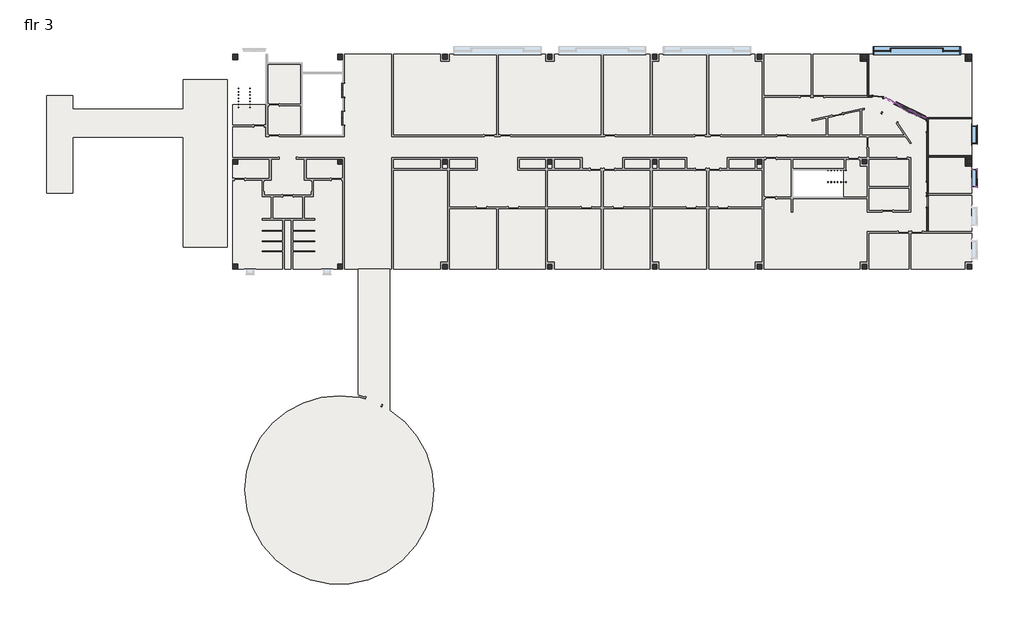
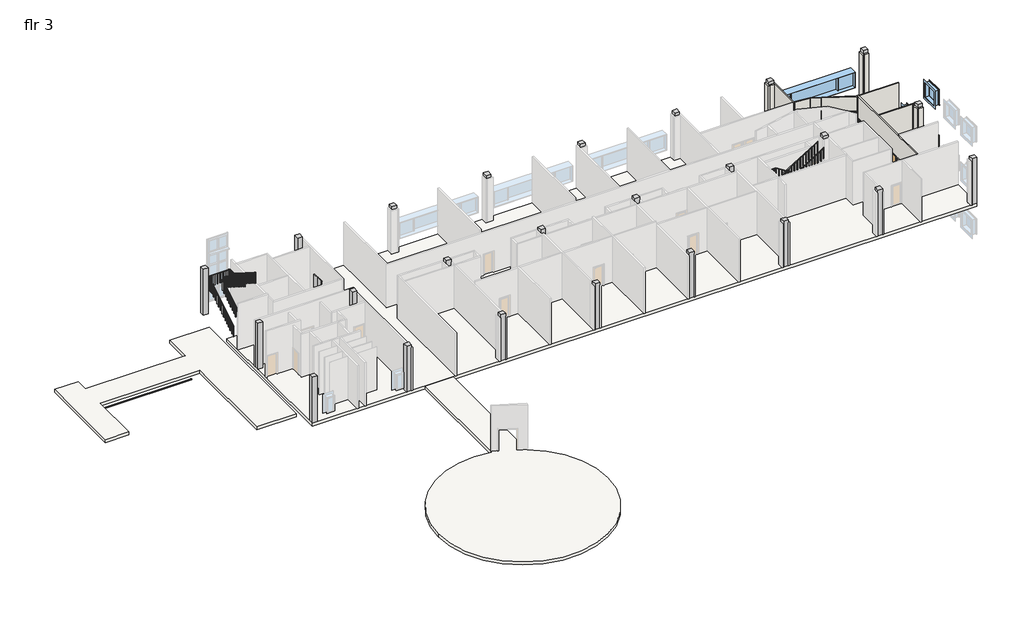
# One storey, part 4 of 4: 24 columns, 16 walls, 12 plates, 5 windows, 4 railings, 3 doors, 3 slabs, 2 beams, 2 proxies.
"""IFC4 building model written with IfcOpenShell, lengths in millimetres."""

from ifc_helpers import new_model, si_unit, point, frame, frame_2d, origin, place, context, project, spatial, polyline, circle_curve, trimmed, segment, composite_curve, outline, extrude, faceted_brep, transform, mapped, element, save
from ifc_brep_helpers import plane_surface, cylinder_surface, revolved_surface, advanced_brep
from components import beam_24h7_efb412ec, proxy_ae548678, column_2b57f2af, door_009a01e8, door_df34b78b, glazed_panel_glazed_panel_e6ec7095, glazed_panel_glazed_panel_da42ca35, glazed_panel_glazed_panel_14e92379, glazed_panel_glazed_panel_29cf083e, stair_railing_1_54533a57, stair_railing_1_f91c0f70, stair_railing_1_055cd317, stair_railing_1_86ab4dc6, fixed_25_x5_r1_fixed_25_x5_r1_81c53d64, fixed_5_x5_e2f24dca

model = new_model("IFC4")

# Units and contexts
model_context = context("Model", 3, world=origin())
ifc_project = project(units=[si_unit("LENGTHUNIT", "METRE", prefix="MILLI")], contexts=[model_context])

# Site, building, storey
site = spatial("IfcSite", under=ifc_project)
building = spatial("IfcBuilding", under=site)
storey = spatial("IfcBuildingStorey", under=building, Name="flr 3", Elevation=10210.8)

# Beams
placement = place(None, origin())
beam_24h7_shape = beam_24h7_efb412ec(model_context)
element("IfcBeam", 1, ObjectType="steel H-series barjoist : 24H7", at=placement, inside=storey, context=model_context, shape_type="MappedRepresentation", body=[
    mapped(beam_24h7_shape, transform((-125644.6252044, 36890.4571029, 9906.0), x_axis=(1.0, 0.0, 0.0), y_axis=(0.0, 1.0, 0.0), z_axis=(0.0, 0.0, 1.0))),
])
element("IfcBeam", 2, ObjectType="steel H-series barjoist : 24H7", at=placement, inside=storey, context=model_context, shape_type="MappedRepresentation", body=[
    mapped(beam_24h7_shape, transform((-125644.6252044, 38719.2571029, 9906.0), x_axis=(1.0, 0.0, 0.0), y_axis=(0.0, 1.0, 0.0), z_axis=(0.0, 0.0, 1.0))),
])

# Proxies
proxy_shape = proxy_ae548678(model_context)
element("IfcBuildingElementProxy", 3, Name="Elevator-Center : 72\" x 114\" Hospital min.", ObjectType="Elevator-Center : 72\" x 114\" Hospital min.", at=placement, inside=storey, context=model_context, shape_type="MappedRepresentation", body=[
    mapped(proxy_shape, transform((-105880.840902, 38348.4927472, 10210.8), x_axis=(0.0, 1.0, 0.0), y_axis=(-1.0, 0.0, 0.0), z_axis=(0.0, 0.0, 1.0))),
])
element("IfcBuildingElementProxy", 4, Name="Elevator-Center : 72\" x 114\" Hospital min.", ObjectType="Elevator-Center : 72\" x 114\" Hospital min.", at=placement, inside=storey, context=model_context, shape_type="MappedRepresentation", body=[
    mapped(proxy_shape, transform((-105880.840902, 40786.8927472, 10210.8), x_axis=(0.0, 1.0, 0.0), y_axis=(-1.0, 0.0, 0.0), z_axis=(0.0, 0.0, 1.0))),
])

# Columns
element("IfcColumn", 5, ObjectType="Rectangular Column : 18\" x 18\"", at=placement, inside=storey, context=model_context, shape_type="SweptSolid", body=[
    extrude(outline(polyline([(-105950.690902, 25543.0071029), (-105950.690902, 25085.8071029), (-106407.890902, 25085.8071029), (-106407.890902, 25543.0071029), (-105950.690902, 25543.0071029)])), frame((0.0, 0.0, 10210.8), z_axis=(0.0, 0.0, 1.0), x_axis=(1.0, 0.0, 0.0)), (0.0, 0.0, 1.0), 4724.4),
])
element("IfcColumn", 6, ObjectType="Rectangular Column : 18\" x 18\"", at=placement, inside=storey, context=model_context, shape_type="SweptSolid", body=[
    extrude(outline(polyline([(-96806.690902, 25543.0071029), (-96806.690902, 25085.8071029), (-97263.890902, 25085.8071029), (-97263.890902, 25543.0071029), (-96806.690902, 25543.0071029)])), frame((0.0, 0.0, 10210.8), z_axis=(0.0, 0.0, 1.0), x_axis=(1.0, 0.0, 0.0)), (0.0, 0.0, 1.0), 4724.4),
])
element("IfcColumn", 7, ObjectType="Rectangular Column : 18\" x 18\"", at=placement, inside=storey, context=model_context, shape_type="SweptSolid", body=[
    extrude(outline(polyline([(-87662.690902, 25543.0071029), (-87662.690902, 25085.8071029), (-88119.890902, 25085.8071029), (-88119.890902, 25543.0071029), (-87662.690902, 25543.0071029)])), frame((0.0, 0.0, 10210.8), z_axis=(0.0, 0.0, 1.0), x_axis=(1.0, 0.0, 0.0)), (0.0, 0.0, 1.0), 4724.4),
])
element("IfcColumn", 8, ObjectType="Rectangular Column : 18\" x 18\"", at=placement, inside=storey, context=model_context, shape_type="SweptSolid", body=[
    extrude(outline(polyline([(-78518.690902, 25543.0071029), (-78518.690902, 25085.8071029), (-78975.890902, 25085.8071029), (-78975.890902, 25543.0071029), (-78518.690902, 25543.0071029)])), frame((0.0, 0.0, 10210.8), z_axis=(0.0, 0.0, 1.0), x_axis=(1.0, 0.0, 0.0)), (0.0, 0.0, 1.0), 4724.4),
])
element("IfcColumn", 9, ObjectType="Rectangular Column : 18\" x 18\"", at=placement, inside=storey, context=model_context, shape_type="SweptSolid", body=[
    extrude(outline(polyline([(-69374.690902, 25543.0071029), (-69374.690902, 25085.8071029), (-69831.890902, 25085.8071029), (-69831.890902, 25543.0071029), (-69374.690902, 25543.0071029)])), frame((0.0, 0.0, 10210.8), z_axis=(0.0, 0.0, 1.0), x_axis=(1.0, 0.0, 0.0)), (0.0, 0.0, 1.0), 4724.4),
])
element("IfcColumn", 10, ObjectType="Rectangular Column : 18\" x 18\"", at=placement, inside=storey, context=model_context, shape_type="SweptSolid", body=[
    extrude(outline(polyline([(-60230.690902, 25543.0071029), (-60230.690902, 25085.8071029), (-60687.890902, 25085.8071029), (-60687.890902, 25543.0071029), (-60230.690902, 25543.0071029)])), frame((0.0, 0.0, 10210.8), z_axis=(0.0, 0.0, 1.0), x_axis=(1.0, 0.0, 0.0)), (0.0, 0.0, 1.0), 4724.4),
])
element("IfcColumn", 11, ObjectType="Rectangular Column : 18\" x 18\"", at=placement, inside=storey, context=model_context, shape_type="SweptSolid", body=[
    extrude(outline(polyline([(-51086.690902, 25543.0071029), (-51086.690902, 25085.8071029), (-51543.890902, 25085.8071029), (-51543.890902, 25543.0071029), (-51086.690902, 25543.0071029)])), frame((0.0, 0.0, 10210.8), z_axis=(0.0, 0.0, 1.0), x_axis=(1.0, 0.0, 0.0)), (0.0, 0.0, 1.0), 4724.4),
])
element("IfcColumn", 12, ObjectType="Rectangular Column : 18\" x 18\"", at=placement, inside=storey, context=model_context, shape_type="SweptSolid", body=[
    extrude(outline(polyline([(-115094.690902, 34687.0071029), (-115094.690902, 34229.8071029), (-115551.890902, 34229.8071029), (-115551.890902, 34687.0071029), (-115094.690902, 34687.0071029)])), frame((0.0, 0.0, 10210.8), z_axis=(0.0, 0.0, 1.0), x_axis=(1.0, 0.0, 0.0)), (0.0, 0.0, 1.0), 4724.4),
])
element("IfcColumn", 13, ObjectType="Rectangular Column : 18\" x 18\"", at=placement, inside=storey, context=model_context, shape_type="SweptSolid", body=[
    extrude(outline(polyline([(-105950.690902, 34687.0071029), (-105950.690902, 34229.8071029), (-106407.890902, 34229.8071029), (-106407.890902, 34687.0071029), (-105950.690902, 34687.0071029)])), frame((0.0, 0.0, 10210.8), z_axis=(0.0, 0.0, 1.0), x_axis=(1.0, 0.0, 0.0)), (0.0, 0.0, 1.0), 4724.4),
])
element("IfcColumn", 14, ObjectType="Rectangular Column : 18\" x 18\"", at=placement, inside=storey, context=model_context, shape_type="SweptSolid", body=[
    extrude(outline(polyline([(-96806.690902, 34687.0071029), (-96806.690902, 34229.8071029), (-97263.890902, 34229.8071029), (-97263.890902, 34687.0071029), (-96806.690902, 34687.0071029)])), frame((0.0, 0.0, 10210.8), z_axis=(0.0, 0.0, 1.0), x_axis=(1.0, 0.0, 0.0)), (0.0, 0.0, 1.0), 4724.4),
])
element("IfcColumn", 15, ObjectType="Rectangular Column : 18\" x 18\"", at=placement, inside=storey, context=model_context, shape_type="SweptSolid", body=[
    extrude(outline(polyline([(-87662.690902, 34687.0071029), (-87662.690902, 34229.8071029), (-88119.890902, 34229.8071029), (-88119.890902, 34687.0071029), (-87662.690902, 34687.0071029)])), frame((0.0, 0.0, 10210.8), z_axis=(0.0, 0.0, 1.0), x_axis=(1.0, 0.0, 0.0)), (0.0, 0.0, 1.0), 4724.4),
])
element("IfcColumn", 16, ObjectType="Rectangular Column : 18\" x 18\"", at=placement, inside=storey, context=model_context, shape_type="SweptSolid", body=[
    extrude(outline(polyline([(-78518.690902, 34687.0071029), (-78518.690902, 34229.8071029), (-78975.890902, 34229.8071029), (-78975.890902, 34687.0071029), (-78518.690902, 34687.0071029)])), frame((0.0, 0.0, 10210.8), z_axis=(0.0, 0.0, 1.0), x_axis=(1.0, 0.0, 0.0)), (0.0, 0.0, 1.0), 4724.4),
])
element("IfcColumn", 17, ObjectType="Rectangular Column : 18\" x 18\"", at=placement, inside=storey, context=model_context, shape_type="SweptSolid", body=[
    extrude(outline(polyline([(-69374.690902, 34687.0071029), (-69374.690902, 34229.8071029), (-69831.890902, 34229.8071029), (-69831.890902, 34687.0071029), (-69374.690902, 34687.0071029)])), frame((0.0, 0.0, 10210.8), z_axis=(0.0, 0.0, 1.0), x_axis=(1.0, 0.0, 0.0)), (0.0, 0.0, 1.0), 4724.4),
])
element("IfcColumn", 18, ObjectType="Rectangular Column : 18\" x 18\"", at=placement, inside=storey, context=model_context, shape_type="SweptSolid", body=[
    extrude(outline(polyline([(-60230.690902, 34687.0071029), (-60230.690902, 34229.8071029), (-60687.890902, 34229.8071029), (-60687.890902, 34687.0071029), (-60230.690902, 34687.0071029)])), frame((0.0, 0.0, 10210.8), z_axis=(0.0, 0.0, 1.0), x_axis=(1.0, 0.0, 0.0)), (0.0, 0.0, 1.0), 4724.4),
])
element("IfcColumn", 19, ObjectType="Rectangular Column : 18\" x 18\"", at=placement, inside=storey, context=model_context, shape_type="SweptSolid", body=[
    extrude(outline(polyline([(-51086.690902, 34687.0071029), (-51086.690902, 34229.8071029), (-51543.890902, 34229.8071029), (-51543.890902, 34687.0071029), (-51086.690902, 34687.0071029)])), frame((0.0, 0.0, 10210.8), z_axis=(0.0, 0.0, 1.0), x_axis=(1.0, 0.0, 0.0)), (0.0, 0.0, 1.0), 4724.4),
])
element("IfcColumn", 20, ObjectType="Rectangular Column : 18\" x 18\"", at=placement, inside=storey, context=model_context, shape_type="SweptSolid", body=[
    extrude(outline(polyline([(-105950.690902, 43831.0071029), (-105950.690902, 43373.8071029), (-106407.890902, 43373.8071029), (-106407.890902, 43831.0071029), (-105950.690902, 43831.0071029)])), frame((0.0, 0.0, 10210.8), z_axis=(0.0, 0.0, 1.0), x_axis=(1.0, 0.0, 0.0)), (0.0, 0.0, 1.0), 4724.4),
])
element("IfcColumn", 21, ObjectType="Rectangular Column : 18\" x 18\"", at=placement, inside=storey, context=model_context, shape_type="SweptSolid", body=[
    extrude(outline(polyline([(-96806.690902, 43831.0071029), (-96806.690902, 43373.8071029), (-97263.890902, 43373.8071029), (-97263.890902, 43831.0071029), (-96806.690902, 43831.0071029)])), frame((0.0, 0.0, 10210.8), z_axis=(0.0, 0.0, 1.0), x_axis=(1.0, 0.0, 0.0)), (0.0, 0.0, 1.0), 4724.4),
])
element("IfcColumn", 22, ObjectType="Rectangular Column : 18\" x 18\"", at=placement, inside=storey, context=model_context, shape_type="SweptSolid", body=[
    extrude(outline(polyline([(-87662.690902, 43831.0071029), (-87662.690902, 43373.8071029), (-88119.890902, 43373.8071029), (-88119.890902, 43831.0071029), (-87662.690902, 43831.0071029)])), frame((0.0, 0.0, 10210.8), z_axis=(0.0, 0.0, 1.0), x_axis=(1.0, 0.0, 0.0)), (0.0, 0.0, 1.0), 4724.4),
])
element("IfcColumn", 23, ObjectType="Rectangular Column : 18\" x 18\"", at=placement, inside=storey, context=model_context, shape_type="SweptSolid", body=[
    extrude(outline(polyline([(-78518.690902, 43831.0071029), (-78518.690902, 43373.8071029), (-78975.890902, 43373.8071029), (-78975.890902, 43831.0071029), (-78518.690902, 43831.0071029)])), frame((0.0, 0.0, 10210.8), z_axis=(0.0, 0.0, 1.0), x_axis=(1.0, 0.0, 0.0)), (0.0, 0.0, 1.0), 4724.4),
])
element("IfcColumn", 24, ObjectType="Rectangular Column : 18\" x 18\"", at=placement, inside=storey, context=model_context, shape_type="SweptSolid", body=[
    extrude(outline(polyline([(-69374.690902, 43831.0071029), (-69374.690902, 43373.8071029), (-69831.890902, 43373.8071029), (-69831.890902, 43831.0071029), (-69374.690902, 43831.0071029)])), frame((0.0, 0.0, 10210.8), z_axis=(0.0, 0.0, 1.0), x_axis=(1.0, 0.0, 0.0)), (0.0, 0.0, 1.0), 4724.4),
])
element("IfcColumn", 25, ObjectType="Rectangular Column : 18\" x 18\"", at=placement, inside=storey, context=model_context, shape_type="SweptSolid", body=[
    extrude(outline(polyline([(-60230.690902, 43831.0071029), (-60230.690902, 43373.8071029), (-60687.890902, 43373.8071029), (-60687.890902, 43831.0071029), (-60230.690902, 43831.0071029)])), frame((0.0, 0.0, 10210.8), z_axis=(0.0, 0.0, 1.0), x_axis=(1.0, 0.0, 0.0)), (0.0, 0.0, 1.0), 4724.4),
])
element("IfcColumn", 26, ObjectType="Rectangular Column : 18\" x 18\"", at=placement, inside=storey, context=model_context, shape_type="SweptSolid", body=[
    extrude(outline(polyline([(-51086.690902, 43831.0071029), (-51086.690902, 43373.8071029), (-51543.890902, 43373.8071029), (-51543.890902, 43831.0071029), (-51086.690902, 43831.0071029)])), frame((0.0, 0.0, 10210.8), z_axis=(0.0, 0.0, 1.0), x_axis=(1.0, 0.0, 0.0)), (0.0, 0.0, 1.0), 4724.4),
])
column_shape = column_2b57f2af(model_context)
element("IfcColumn", 27, ObjectType="Rectangular Column : 18\" x 18\"", at=placement, inside=storey, context=model_context, shape_type="MappedRepresentation", body=[
    mapped(column_shape, transform((-115323.290902, 25314.4071029, 0.0), x_axis=(1.0, 0.0, 0.0), y_axis=(0.0, 1.0, 0.0), z_axis=(0.0, 0.0, 1.0))),
])
element("IfcColumn", 28, ObjectType="Rectangular Column : 18\" x 18\"", at=placement, inside=storey, context=model_context, shape_type="MappedRepresentation", body=[
    mapped(column_shape, transform((-115323.290902, 43602.4071029, 0.0), x_axis=(1.0, 0.0, 0.0), y_axis=(0.0, 1.0, 0.0), z_axis=(0.0, 0.0, 1.0))),
])

# Doors
door_shape = door_009a01e8(model_context)
element("IfcDoor", 29, ObjectType="Sgl-Glass 1 : 36\" x 84\"", at=placement, inside=storey, context=model_context, shape_type="MappedRepresentation", body=[
    mapped(door_shape, transform((-54972.890902, 32233.7904363, 10210.8), x_axis=(0.0, -1.0, 0.0), y_axis=(1.0, 0.0, 0.0), z_axis=(0.0, 0.0, 1.0))),
])
door_2_shape = door_df34b78b(model_context)
element("IfcDoor", 30, ObjectType="Sgl-Glass 1 : 36\" x 84\"", at=placement, inside=storey, context=model_context, shape_type="MappedRepresentation", body=[
    mapped(door_2_shape, transform((-59292.936844, 40122.4473713, 10210.8), x_axis=(-0.9923887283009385, 0.12314467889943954, 0.0), y_axis=(-0.12314467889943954, -0.9923887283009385, 0.0), z_axis=(0.0, 0.0, 1.0))),
])
element("IfcDoor", 31, ObjectType="Sgl-Glass 1 : 36\" x 84\"", at=placement, inside=storey, context=model_context, shape_type="MappedRepresentation", body=[
    mapped(door_2_shape, transform((-54972.890902, 37550.8571029, 10210.8), x_axis=(0.0, 1.0, 0.0), y_axis=(-1.0, 0.0, 0.0), z_axis=(0.0, 0.0, 1.0))),
])

# Plates
glazed_panel_glazed_panel_shape = glazed_panel_glazed_panel_e6ec7095(model_context)
element("IfcPlate", 32, ObjectType="Glazed Panel : Glazed Panel", at=placement, inside=storey, context=model_context, shape_type="MappedRepresentation", body=[
    mapped(glazed_panel_glazed_panel_shape, transform((-57497.286237, 39334.3047685, 10210.8), x_axis=(0.7643032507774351, -0.644856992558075, 0.0), y_axis=(0.644856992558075, 0.7643032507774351, 0.0), z_axis=(0.0, 0.0, 1.0))),
])
element("IfcPlate", 33, ObjectType="Glazed Panel : Glazed Panel", at=placement, inside=storey, context=model_context, shape_type="MappedRepresentation", body=[
    mapped(glazed_panel_glazed_panel_shape, transform((-56207.1261408, 38568.3976796, 10210.8), x_axis=(0.9320948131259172, -0.36221438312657, 0.0), y_axis=(0.36221438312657, 0.9320948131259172, 0.0), z_axis=(0.0, 0.0, 1.0))),
])
element("IfcPlate", 34, ObjectType="Glazed Panel : Glazed Panel", at=placement, inside=storey, context=model_context, shape_type="MappedRepresentation", body=[
    mapped(glazed_panel_glazed_panel_shape, transform((-55485.3981443, 38354.5220069, 10210.8), x_axis=(0.9789497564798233, -0.20410138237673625, 0.0), y_axis=(0.20410138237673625, 0.9789497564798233, 0.0), z_axis=(0.0, 0.0, 1.0))),
])
element("IfcPlate", 35, ObjectType="Glazed Panel : Glazed Panel", at=placement, inside=storey, context=model_context, shape_type="MappedRepresentation", body=[
    mapped(glazed_panel_glazed_panel_shape, transform((-56883.8903971, 38897.9796053, 10210.8), x_axis=(0.859891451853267, -0.5104769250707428, 0.0), y_axis=(0.5104769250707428, 0.859891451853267, 0.0), z_axis=(0.0, 0.0, 1.0))),
])
glazed_panel_glazed_panel_2_shape = glazed_panel_glazed_panel_da42ca35(model_context)
element("IfcPlate", 36, ObjectType="Glazed Panel : Glazed Panel", at=placement, inside=storey, context=model_context, shape_type="MappedRepresentation", body=[
    mapped(glazed_panel_glazed_panel_2_shape, transform((-58432.524926, 39920.3255084, 10210.8), x_axis=(0.9250394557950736, -0.3798710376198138, 0.0), y_axis=(0.3798710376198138, 0.9250394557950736, 0.0), z_axis=(0.0, 0.0, 1.0))),
])
element("IfcPlate", 37, ObjectType="Glazed Panel : Glazed Panel", at=placement, inside=storey, context=model_context, shape_type="MappedRepresentation", body=[
    mapped(glazed_panel_glazed_panel_2_shape, transform((-57996.1540297, 39702.6490757, 10210.8), x_axis=(0.8598752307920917, -0.5105042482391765, 0.0), y_axis=(0.5105042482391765, 0.8598752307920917, 0.0), z_axis=(0.0, 0.0, 1.0))),
])
glazed_panel_glazed_panel_3_shape = glazed_panel_glazed_panel_14e92379(model_context)
element("IfcPlate", 38, ObjectType="Glazed Panel : Glazed Panel", at=placement, inside=storey, context=model_context, shape_type="MappedRepresentation", body=[
    mapped(glazed_panel_glazed_panel_3_shape, transform((-58432.524926, 39920.3255084, 12207.6598856), x_axis=(0.9250394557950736, -0.3798710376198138, 0.0), y_axis=(0.3798710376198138, 0.9250394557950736, 0.0), z_axis=(0.0, 0.0, 1.0))),
])
element("IfcPlate", 39, ObjectType="Glazed Panel : Glazed Panel", at=placement, inside=storey, context=model_context, shape_type="MappedRepresentation", body=[
    mapped(glazed_panel_glazed_panel_3_shape, transform((-57996.1540297, 39702.6490757, 12207.6598856), x_axis=(0.8598752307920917, -0.5105042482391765, 0.0), y_axis=(0.5105042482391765, 0.8598752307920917, 0.0), z_axis=(0.0, 0.0, 1.0))),
])
glazed_panel_glazed_panel_4_shape = glazed_panel_glazed_panel_29cf083e(model_context)
element("IfcPlate", 40, ObjectType="Glazed Panel : Glazed Panel", at=placement, inside=storey, context=model_context, shape_type="MappedRepresentation", body=[
    mapped(glazed_panel_glazed_panel_4_shape, transform((-57497.286237, 39334.3047685, 12166.4389069), x_axis=(0.7643032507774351, -0.644856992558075, 0.0), y_axis=(0.644856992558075, 0.7643032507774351, 0.0), z_axis=(0.0, 0.0, 1.0))),
])
element("IfcPlate", 41, ObjectType="Glazed Panel : Glazed Panel", at=placement, inside=storey, context=model_context, shape_type="MappedRepresentation", body=[
    mapped(glazed_panel_glazed_panel_4_shape, transform((-56883.8903971, 38897.9796053, 12166.4389069), x_axis=(0.859891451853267, -0.5104769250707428, 0.0), y_axis=(0.5104769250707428, 0.859891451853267, 0.0), z_axis=(0.0, 0.0, 1.0))),
])
element("IfcPlate", 42, ObjectType="Glazed Panel : Glazed Panel", at=placement, inside=storey, context=model_context, shape_type="MappedRepresentation", body=[
    mapped(glazed_panel_glazed_panel_4_shape, transform((-56207.1261408, 38568.3976796, 12166.4389069), x_axis=(0.9320948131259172, -0.36221438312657, 0.0), y_axis=(0.36221438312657, 0.9320948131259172, 0.0), z_axis=(0.0, 0.0, 1.0))),
])
element("IfcPlate", 43, ObjectType="Glazed Panel : Glazed Panel", at=placement, inside=storey, context=model_context, shape_type="MappedRepresentation", body=[
    mapped(glazed_panel_glazed_panel_4_shape, transform((-55485.3981443, 38354.5220069, 12166.4389069), x_axis=(0.9789497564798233, -0.20410138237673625, 0.0), y_axis=(0.20410138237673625, 0.9789497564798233, 0.0), z_axis=(0.0, 0.0, 1.0))),
])

# Railings
stair_railing_1_shape = stair_railing_1_54533a57(model_context)
element("IfcRailing", 44, ObjectType="Stair Railing 1", at=placement, inside=storey, context=model_context, shape_type="MappedRepresentation", body=[
    mapped(stair_railing_1_shape, transform((0.0, 0.0, 0.0), x_axis=(1.0, 0.0, 0.0), y_axis=(0.0, 1.0, 0.0), z_axis=(0.0, 0.0, 1.0))),
])
stair_railing_1_2_shape = stair_railing_1_f91c0f70(model_context)
element("IfcRailing", 45, ObjectType="Stair Railing 1", at=placement, inside=storey, context=model_context, shape_type="MappedRepresentation", body=[
    mapped(stair_railing_1_2_shape, transform((0.0, 0.0, 0.0), x_axis=(1.0, 0.0, 0.0), y_axis=(0.0, 1.0, 0.0), z_axis=(0.0, 0.0, 1.0))),
])
stair_railing_1_3_shape = stair_railing_1_055cd317(model_context)
element("IfcRailing", 46, ObjectType="Stair Railing 1", at=placement, inside=storey, context=model_context, shape_type="MappedRepresentation", body=[
    mapped(stair_railing_1_3_shape, transform((0.0, 0.0, 0.0), x_axis=(1.0, 0.0, 0.0), y_axis=(0.0, 1.0, 0.0), z_axis=(0.0, 0.0, 1.0))),
])
stair_railing_1_4_shape = stair_railing_1_86ab4dc6(model_context)
element("IfcRailing", 47, ObjectType="Stair Railing 1", at=placement, inside=storey, context=model_context, shape_type="MappedRepresentation", body=[
    mapped(stair_railing_1_4_shape, transform((0.0, 0.0, 0.0), x_axis=(1.0, 0.0, 0.0), y_axis=(0.0, 1.0, 0.0), z_axis=(0.0, 0.0, 1.0))),
])

# Slabs
element("IfcSlab", 48, ObjectType="Generic - 12\"", at=placement, inside=storey, context=model_context, shape_type="SweptSolid", body=[
    extrude(outline(polyline([(-119844.490902, 41618.0321029), (-116007.8828209, 41618.0321029), (-116007.8828209, 26993.9821029), (-119844.490902, 26993.9821029), (-119844.490902, 36592.0071029), (-129506.015902, 36592.0071029), (-129506.015902, 31731.2762968), (-131788.840902, 31731.2762968), (-131788.840902, 40240.0821029), (-129506.015902, 40240.0821029), (-129506.015902, 39030.4071029), (-119844.490902, 39030.4071029), (-119844.490902, 41618.0321029)])), frame((0.0, 0.0, 9906.0), z_axis=(0.0, 0.0, 1.0), x_axis=(1.0, 0.0, 0.0)), (0.0, 0.0, 1.0), 304.8),
])
element("IfcSlab", 49, ObjectType="Generic - 12\"", at=placement, inside=storey, context=model_context, shape_type="SweptSolid", body=[
    extrude(outline(composite_curve([segment(trimmed(circle_curve(frame_2d((-106255.490902, 5807.2071029)), 8229.6), [point((-101864.8074925, 12767.6823279))], [point((-98025.890902, 5807.2071029))], False, "CARTESIAN"), True, "CONTINUOUS"), segment(trimmed(circle_curve(frame_2d((-106255.490902, 5807.2071029)), 8229.6), [point((-98025.890902, 5807.2071029))], [point((-114485.090902, 5807.2071029))], False, "CARTESIAN"), True, "CONTINUOUS"), segment(trimmed(circle_curve(frame_2d((-106255.490902, 5807.2071029)), 8229.6), [point((-114485.090902, 5807.2071029))], [point((-104601.6574925, 13868.9160541))], False, "CARTESIAN"), True, "CONTINUOUS"), segment(polyline([(-104601.6574925, 13868.9160541), (-104601.6574925, 25084.2196029), (-101864.8074925, 25084.2196029), (-101864.8074925, 12767.6823279)]), True, "CONTINUOUS")], self_intersect=False)), frame((0.0, 0.0, 9906.0), z_axis=(0.0, 0.0, 1.0), x_axis=(1.0, 0.0, 0.0)), (0.0, 0.0, 1.0), 304.8),
])
element("IfcSlab", 50, ObjectType="Generic - 12\"", at=placement, inside=storey, context=model_context, shape_type="SweptSolid", body=[
    extrude(outline(polyline([(-51085.103402, 43832.5946029), (-51085.103402, 25084.2196029), (-115553.8578209, 25084.2196029), (-115553.8578209, 39436.8071029), (-112649.940902, 39436.8071029), (-112649.940902, 43119.8071029), (-109493.990902, 43119.8071029), (-109493.990902, 36795.2071029), (-105950.690902, 36795.2071029), (-105950.690902, 43832.5946029), (-51085.103402, 43832.5946029)]), holes=[polyline([(-66688.640902, 31372.3071029), (-62318.5594944, 31372.3071029), (-62318.5594944, 33728.1571029), (-66688.640902, 33728.1571029), (-66688.640902, 31372.3071029)])]), frame((0.0, 0.0, 9906.0), z_axis=(0.0, 0.0, 1.0), x_axis=(1.0, 0.0, 0.0)), (0.0, 0.0, 1.0), 304.8),
])

# Walls
element("IfcWall", 51, ObjectType="Curtain Wall 1", at=placement, inside=storey, context=model_context, shape_type="SweptSolid", body=[
    extrude(outline(composite_curve([segment(polyline([(-55096.9889353, 38428.6894426), (-55134.3840475, 38126.1920946)]), True, "CONTINUOUS"), segment(trimmed(circle_curve(frame_2d((-54553.7500122, 42823.069458)), 4732.6306479), [point((-55134.3840475, 38126.1920946))], [point((-57893.4800288, 39469.862595))], False, "CARTESIAN"), True, "CONTINUOUS"), segment(polyline([(-57893.4800288, 39469.862595), (-57678.3882997, 39685.8222859)]), True, "CONTINUOUS"), segment(trimmed(circle_curve(frame_2d((-54553.7500122, 42823.069458)), 4427.8306479), [point((-57678.3882997, 39685.8222859))], [point((-55096.9889353, 38428.6894426))], True, "CARTESIAN"), True, "CONTINUOUS")], self_intersect=False)), frame((0.0, 0.0, 10210.8), z_axis=(0.0, 0.0, 1.0), x_axis=(1.0, 0.0, 0.0)), (0.0, 0.0, 1.0), 2933.4583604),
])
element("IfcWall", 52, ObjectType="Interior - 4 7/8\" Partition (1-hr)", at=placement, inside=storey, context=model_context, shape_type="Brep", body=[
    faceted_brep([(-60097.340902, 40084.5071029, 10210.8), (-60097.340902, 40092.2247989, 10210.8), (-60097.340902, 40220.1216597, 10210.8), (-60097.340902, 43832.5946029, 10210.8), (-60097.340902, 43832.5946029, 14630.4), (-60097.340902, 40220.1216597, 14630.4), (-60097.340902, 40092.2247989, 14630.4), (-60097.340902, 40084.5071029, 14630.4), (-60224.340902, 40084.5071029, 10210.8), (-60224.340902, 40084.5071029, 14630.4), (-60224.340902, 40211.5071029, 14630.4), (-60224.340902, 43234.1071029, 14630.4), (-60224.340902, 43373.8071029, 14630.4), (-60224.340902, 43832.5946029, 14630.4), (-60224.340902, 43832.5946029, 10210.8), (-60224.340902, 43373.8071029, 10210.8), (-60224.340902, 43234.1071029, 10210.8), (-60224.340902, 40211.5071029, 10210.8)], [[[0, 1, 2, 3, 4, 5, 6, 7]], [[8, 9, 10, 11, 12, 13, 14, 15, 16, 17]], [[3, 2, 1, 0, 8, 17, 16, 15, 14]], [[0, 7, 9, 8]], [[4, 3, 14, 13]], [[7, 6, 5, 4, 13, 12, 11, 10, 9]]]),
])
element("IfcWall", 53, ObjectType="Interior - 4 7/8\" Partition (1-hr)", at=placement, inside=storey, context=model_context, shape_type="Brep", body=[
    faceted_brep([(-54909.390902, 31420.9904363, 12344.4), (-54909.390902, 31420.9904363, 10210.8), (-54909.390902, 31560.6904363, 10210.8), (-54909.390902, 31687.6904363, 10210.8), (-54909.390902, 31776.5904363, 10210.8), (-54909.390902, 31776.5904363, 12344.4), (-54909.390902, 32690.9904363, 12344.4), (-54909.390902, 32690.9904363, 10210.8), (-54909.390902, 34879.6237696, 10210.8), (-54909.390902, 35006.6237696, 10210.8), (-54909.390902, 37093.6571029, 10210.8), (-54909.390902, 37093.6571029, 12344.4), (-54909.390902, 38008.0571029, 12344.4), (-54909.390902, 38008.0571029, 10210.8), (-54909.390902, 38198.5571029, 10210.8), (-54909.390902, 38325.5571029, 10210.8), (-54909.390902, 38325.5571029, 14630.4), (-54909.390902, 38198.5571029, 14630.4), (-54909.390902, 35006.6237696, 14630.4), (-54909.390902, 34879.6237696, 14630.4), (-54909.390902, 31687.6904363, 14630.4), (-54909.390902, 31560.6904363, 14630.4), (-54909.390902, 28368.7571029, 14630.4), (-54909.390902, 28368.7571029, 10210.8), (-54909.390902, 30506.5904363, 10210.8), (-54909.390902, 30506.5904363, 12344.4), (-55036.390902, 31776.5904363, 10210.8), (-55036.390902, 31420.9904363, 10210.8), (-55036.390902, 31420.9904363, 12344.4), (-55036.390902, 30506.5904363, 12344.4), (-55036.390902, 30506.5904363, 10210.8), (-55036.390902, 28368.7571029, 10210.8), (-55036.390902, 28368.7571029, 14630.4), (-55036.390902, 38204.4882795, 14630.4), (-55036.390902, 38325.5571029, 14630.4), (-55036.390902, 38325.5571029, 10210.8), (-55036.390902, 38204.4882795, 10210.8), (-55036.390902, 38008.0571029, 10210.8), (-55036.390902, 38008.0571029, 12344.4), (-55036.390902, 37093.6571029, 12344.4), (-55036.390902, 37093.6571029, 10210.8), (-55036.390902, 32690.9904363, 10210.8), (-55036.390902, 32690.9904363, 12344.4), (-55036.390902, 31776.5904363, 12344.4), (-54969.96914, 38325.5571029, 10210.8), (-54969.96914, 38325.5571029, 14630.4)], [[[0, 1, 2, 3, 4, 5, 6, 7, 8, 9, 10, 11, 12, 13, 14, 15, 16, 17, 18, 19, 20, 21, 22, 23, 24, 25]], [[26, 27, 28, 29, 30, 31, 32, 33, 34, 35, 36, 37, 38, 39, 40, 41, 42, 43]], [[15, 14, 13, 37, 36, 35, 44]], [[4, 3, 2, 1, 27, 26]], [[41, 40, 10, 9, 8, 7]], [[24, 23, 31, 30]], [[16, 15, 44, 35, 34, 45]], [[23, 22, 32, 31]], [[22, 21, 20, 19, 18, 17, 16, 45, 34, 33, 32]], [[38, 37, 13, 12]], [[39, 38, 12, 11]], [[40, 39, 11, 10]], [[5, 4, 26, 43]], [[6, 5, 43, 42]], [[7, 6, 42, 41]], [[28, 27, 1, 0]], [[29, 28, 0, 25]], [[30, 29, 25, 24]]]),
])
element("IfcWall", 54, ObjectType="Interior - 4 7/8\" Partition (1-hr)", at=placement, inside=storey, context=model_context, shape_type="SweptSolid", body=[
    extrude(outline(polyline([(-51085.103402, 38198.5571029), (-54909.390902, 38198.5571029), (-54909.390902, 38325.5571029), (-51085.103402, 38325.5571029), (-51085.103402, 38198.5571029)])), frame((0.0, 0.0, 10210.8), z_axis=(0.0, 0.0, 1.0), x_axis=(1.0, 0.0, 0.0)), (0.0, 0.0, 1.0), 4419.6),
])
element("IfcWall", 55, ObjectType="Interior - 4 7/8\" Partition (1-hr)", at=placement, inside=storey, context=model_context, shape_type="SweptSolid", body=[
    extrude(outline(polyline([(-54909.390902, 35006.6237696), (-51085.103402, 35006.6237696), (-51085.103402, 34879.6237696), (-54909.390902, 34879.6237696), (-54909.390902, 35006.6237696)])), frame((0.0, 0.0, 10210.8), z_axis=(0.0, 0.0, 1.0), x_axis=(1.0, 0.0, 0.0)), (0.0, 0.0, 1.0), 4419.6),
])
element("IfcWall", 56, ObjectType="Interior - 4 7/8\" Partition (1-hr)", at=placement, inside=storey, context=model_context, shape_type="AdvancedBrep", body=[
    advanced_brep(
    [(-60097.340902, 40220.1216597, 10210.8), (-59738.6894541, 40242.9571178, 10210.8), (-59754.4766576, 40115.7324343, 10210.8), (-60097.340902, 40092.2247989, 10210.8), (-58831.249201, 40130.3536235, 10210.8), (-58638.9060494, 40073.5393258, 10210.8), (-58678.4458643, 39952.8512856, 10210.8), (-58847.0364045, 40003.1289399, 10210.8), (-59738.6894541, 40242.9571178, 12344.4), (-60097.340902, 40220.1216597, 14630.4), (-58638.9060494, 40073.5393258, 14630.4), (-58638.9060494, 40073.5393258, 13206.0898284), (-58831.249201, 40130.3536235, 12344.4), (-59754.4766576, 40115.7324343, 12344.4), (-58847.0364045, 40003.1289399, 12344.4), (-58678.4458643, 39952.8512856, 13206.0898284), (-58678.4458643, 39952.8512856, 14630.4), (-60097.340902, 40092.2247989, 14630.4)],
    [
        (0, 1, circle_curve(frame((-59701.4569562, 36830.2973714, 10210.8), z_axis=(0.0, 0.0, -1.0), x_axis=(1.0, 0.0, 0.0)), 3412.8628457)),
        (1, 2),
        (2, 3, circle_curve(frame((-59701.4569562, 36830.2973714, 10210.8), z_axis=(0.0, 0.0, 1.0), x_axis=(1.0, 0.0, 0.0)), 3285.8628457)),
        (3, 0),
        (4, 5, circle_curve(frame((-59701.4569562, 36830.2973714, 10210.8), z_axis=(0.0, 0.0, -1.0), x_axis=(1.0, 0.0, 0.0)), 3412.8628457)),
        (5, 6),
        (6, 7, circle_curve(frame((-59701.4569562, 36830.2973714, 10210.8), z_axis=(0.0, 0.0, 1.0), x_axis=(1.0, 0.0, 0.0)), 3285.8628457)),
        (7, 4),
        (8, 1),
        (0, 9),
        (9, 10, circle_curve(frame((-59701.4569562, 36830.2973714, 14630.4), z_axis=(0.0, 0.0, -1.0), x_axis=(1.0, 0.0, 0.0)), 3412.8628457)),
        (10, 11),
        (11, 5),
        (4, 12),
        (12, 8, circle_curve(frame((-59701.4569562, 36830.2973714, 12344.4), z_axis=(0.0, 0.0, 1.0), x_axis=(1.0, 0.0, 0.0)), 3412.8628457)),
        (2, 13),
        (13, 14, circle_curve(frame((-59701.4569562, 36830.2973714, 12344.4), z_axis=(0.0, 0.0, -1.0), x_axis=(1.0, 0.0, 0.0)), 3285.8628457)),
        (14, 7),
        (6, 15),
        (15, 16),
        (16, 17, circle_curve(frame((-59701.4569562, 36830.2973714, 14630.4), z_axis=(0.0, 0.0, 1.0), x_axis=(1.0, 0.0, 0.0)), 3285.8628457)),
        (17, 3),
        (10, 16),
        (17, 9),
        (8, 13),
        (12, 14),
    ],
    [
        plane_surface(frame((-56288.5941104, 36830.2973714, 10210.8), z_axis=(0.0, 0.0, -1.0), x_axis=(0.0, -1.0, 0.0))),
        cylinder_surface(frame((-59701.4569562, 36830.2973714, 10210.8), z_axis=(0.0, 0.0, 1.0), x_axis=(1.0, 0.0, 0.0)), 3412.8628457),
        revolved_surface(polyline([(-56415.5941105, 36830.2973714, 10210.8), (-56415.5941105, 36830.2973714, 14630.4)]), (-59701.4569562, 36830.2973714, 10210.8), (0.0, 0.0, -1.0)),
        plane_surface(frame((-58678.4458643, 39952.8512856, 14630.4), z_axis=(0.9502995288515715, -0.31133712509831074, 0.0), x_axis=(0.0, 0.0, -1.0))),
        plane_surface(frame((-60097.340902, 42967.4071029, 10210.8), z_axis=(-1.0, 0.0, 0.0), x_axis=(0.0, 1.0, 0.0))),
        plane_surface(frame((-51085.103402, 43832.5946029, 14630.4), z_axis=(0.0, 0.0, 1.0), x_axis=(0.0, -1.0, 0.0))),
        plane_surface(frame((-59754.4766576, 40115.7324343, 10210.8), z_axis=(0.9923887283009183, -0.1231446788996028, 0.0), x_axis=(0.1231446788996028, 0.9923887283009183, 0.0))),
        plane_surface(frame((-59754.4766576, 40115.7324343, 12344.4), z_axis=(0.0, 0.0, -1.0000000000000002), x_axis=(0.1231446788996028, 0.9923887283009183, 0.0))),
        plane_surface(frame((-58847.0364045, 40003.1289399, 12344.4), z_axis=(-0.9923887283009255, 0.12314467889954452, 0.0), x_axis=(0.12314467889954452, 0.9923887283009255, 0.0))),
    ],
    [
        (0, [[1, 2, 3, 4]]),
        (0, [[5, 6, 7, 8]]),
        (1, [[9, -1, 10, 11, 12, 13, -5, 14, 15]]),
        (2, [[-3, 16, 17, 18, -7, 19, 20, 21, 22]]),
        (3, [[23, -20, -19, -6, -13, -12]]),
        (4, [[24, -10, -4, -22]]),
        (5, [[-11, -24, -21, -23]]),
        (6, [[-16, -2, -9, 25]]),
        (7, [[-17, -25, -15, 26]]),
        (8, [[-18, -26, -14, -8]]),
    ],
),
])
element("IfcWall", 57, ObjectType="Interior - 4 7/8\" Partition (1-hr)", at=placement, inside=storey, context=model_context, shape_type="AdvancedBrep", body=[
    advanced_brep(
    [(-54969.96914, 38325.5571029, 10210.8), (-55036.390902, 38325.5571029, 10210.8), (-55036.390902, 38204.4882795, 10210.8), (-55123.4771398, 38214.4204878, 10210.8), (-55107.895843, 38340.4610495, 10210.8), (-55107.895843, 38340.4610495, 14630.4), (-54969.96914, 38325.5571029, 14630.4), (-55107.895843, 38340.4610495, 13144.2583604), (-55123.4771398, 38214.4204878, 14630.4), (-55123.4771398, 38214.4204878, 13144.2583604), (-55036.390902, 38204.4882795, 14630.4), (-55036.390902, 38325.5571029, 14630.4)],
    [
        (0, 1),
        (1, 2),
        (2, 3, circle_curve(frame((-54553.7500122, 42823.069458, 10210.8), z_axis=(0.0, 0.0, -1.0), x_axis=(1.0, 0.0, 0.0)), 4643.7306479)),
        (3, 4),
        (4, 0, circle_curve(frame((-54553.7500122, 42823.069458, 10210.8), z_axis=(0.0, 0.0, 1.0), x_axis=(1.0, 0.0, 0.0)), 4516.7306479)),
        (5, 6, circle_curve(frame((-54553.7500122, 42823.069458, 14630.4), z_axis=(0.0, 0.0, 1.0), x_axis=(1.0, 0.0, 0.0)), 4516.7306479)),
        (6, 0),
        (4, 7),
        (7, 5),
        (8, 5),
        (3, 9),
        (9, 8),
        (10, 8, circle_curve(frame((-54553.7500122, 42823.069458, 14630.4), z_axis=(0.0, 0.0, -1.0), x_axis=(1.0, 0.0, 0.0)), 4643.7306479)),
        (2, 10),
        (6, 11),
        (11, 1),
        (11, 10),
    ],
    [
        plane_surface(frame((-50037.0193643, 42823.069458, 10210.8), z_axis=(0.0, 0.0, -1.0), x_axis=(0.0, 1.0, 0.0))),
        revolved_surface(polyline([(-50037.019364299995, 42823.069458, 10210.8), (-50037.019364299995, 42823.069458, 14630.4)]), (-54553.7500122, 42823.069458, 10210.8), (0.0, 0.0, -1.0)),
        plane_surface(frame((-55107.895843, 38340.4610495, 14630.4), z_axis=(-0.9924453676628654, 0.12268737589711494, 0.0), x_axis=(0.0, 0.0, -1.0))),
        cylinder_surface(frame((-54553.7500122, 42823.069458, 10210.8), z_axis=(0.0, 0.0, 1.0), x_axis=(1.0, 0.0, 0.0)), 4643.7306479),
        plane_surface(frame((-52947.240902, 38325.5571029, 9989.82), z_axis=(0.0, -1.0, 0.0), x_axis=(1.0, 0.0, 0.0))),
        plane_surface(frame((-55036.390902, 33315.4071029, 9989.82), z_axis=(1.0, 0.0, 0.0), x_axis=(0.0, 1.0, 0.0))),
        plane_surface(frame((-51085.103402, 43832.5946029, 14630.4), z_axis=(0.0, 0.0, 1.0), x_axis=(0.0, -1.0, 0.0))),
    ],
    [
        (0, [[1, 2, 3, 4, 5]]),
        (1, [[6, 7, -5, 8, 9]]),
        (2, [[10, -9, -8, -4, 11, 12]]),
        (3, [[13, -12, -11, -3, 14]]),
        (4, [[15, 16, -1, -7]]),
        (5, [[17, -14, -2, -16]]),
        (6, [[-6, -10, -13, -17, -15]]),
    ],
),
])
element("IfcWall", 58, ObjectType="Interior - 4 7/8\" Partition (1-hr)", at=placement, inside=storey, context=model_context, shape_type="SweptSolid", body=[
    extrude(outline(composite_curve([segment(polyline([(-57745.0255394, 39626.7252563), (-57826.7733426, 39528.8999709)]), True, "CONTINUOUS"), segment(trimmed(circle_curve(frame_2d((-59701.4569562, 36830.2973714)), 3285.8628457), [point((-57826.7733426, 39528.8999709))], [point((-58678.4458643, 39952.8512856))], True, "CARTESIAN"), True, "CONTINUOUS"), segment(polyline([(-58678.4458643, 39952.8512856), (-58638.9060494, 40073.5393258)]), True, "CONTINUOUS"), segment(trimmed(circle_curve(frame_2d((-59701.4569562, 36830.2973714)), 3412.8628457), [point((-58638.9060494, 40073.5393258))], [point((-57745.0255394, 39626.7252563))], False, "CARTESIAN"), True, "CONTINUOUS")], self_intersect=False)), frame((0.0, 0.0, 13206.0898284), z_axis=(0.0, 0.0, 1.0), x_axis=(1.0, 0.0, 0.0)), (0.0, 0.0, 1.0), 1424.3101716),
])
element("IfcWall", 59, ObjectType="Interior - 4 7/8\" Partition (1-hr)", at=placement, inside=storey, context=model_context, shape_type="SweptSolid", body=[
    extrude(outline(composite_curve([segment(polyline([(-55107.895843, 38340.4610495), (-55123.4771398, 38214.4204878)]), True, "CONTINUOUS"), segment(trimmed(circle_curve(frame_2d((-54553.7500122, 42823.069458)), 4643.7306479), [point((-55123.4771398, 38214.4204878))], [point((-57826.7733426, 39528.8999709))], False, "CARTESIAN"), True, "CONTINUOUS"), segment(polyline([(-57826.7733426, 39528.8999709), (-57745.0255394, 39626.7252563)]), True, "CONTINUOUS"), segment(trimmed(circle_curve(frame_2d((-54553.7500122, 42823.069458)), 4516.7306479), [point((-57745.0255394, 39626.7252563))], [point((-55107.895843, 38340.4610495))], True, "CARTESIAN"), True, "CONTINUOUS")], self_intersect=False)), frame((0.0, 0.0, 13144.2583604), z_axis=(0.0, 0.0, 1.0), x_axis=(1.0, 0.0, 0.0)), (0.0, 0.0, 1.0), 1486.1416396),
])
element("IfcWall", 60, ObjectType="Interior - 5 1/2\" Partition (1-hr)", at=placement, inside=storey, context=model_context, shape_type="Brep", body=[
    faceted_brep([(-60827.590902, 43832.5946029, 10210.8), (-60827.590902, 43234.1071029, 10210.8), (-60827.590902, 43234.1071029, 14630.4), (-60827.590902, 43832.5946029, 14630.4), (-60687.890902, 43832.5946029, 10210.8), (-60687.890902, 43832.5946029, 14630.4), (-60687.890902, 43373.8071029, 14630.4), (-60687.890902, 43234.1071029, 14630.4), (-60687.890902, 43234.1071029, 10210.8), (-60687.890902, 43373.8071029, 10210.8)], [[[0, 1, 2, 3]], [[4, 5, 6, 7, 8, 9]], [[1, 0, 4, 9, 8]], [[2, 1, 8, 7]], [[0, 3, 5, 4]], [[3, 2, 7, 6, 5]]]),
])
element("IfcWall", 61, ObjectType="Interior - 5 1/2\" Partition (1-hr)", at=placement, inside=storey, context=model_context, shape_type="SweptSolid", body=[
    extrude(outline(polyline([(-60224.340902, 43234.1071029), (-60687.890902, 43234.1071029), (-60687.890902, 43373.8071029), (-60224.340902, 43373.8071029), (-60224.340902, 43234.1071029)])), frame((0.0, 0.0, 10210.8), z_axis=(0.0, 0.0, 1.0), x_axis=(1.0, 0.0, 0.0)), (0.0, 0.0, 1.0), 4419.6),
])
element("IfcWall", 62, ObjectType="Interior - 5 1/2\" Partition (1-hr)", at=placement, inside=storey, context=model_context, shape_type="Brep", body=[
    faceted_brep([(-51085.103402, 34826.7071029, 10210.8), (-51683.590902, 34826.7071029, 10210.8), (-51683.590902, 34826.7071029, 14630.4), (-51085.103402, 34826.7071029, 14630.4), (-51085.103402, 34687.0071029, 10210.8), (-51085.103402, 34687.0071029, 14630.4), (-51543.890902, 34687.0071029, 14630.4), (-51683.590902, 34687.0071029, 14630.4), (-51683.590902, 34687.0071029, 10210.8), (-51543.890902, 34687.0071029, 10210.8)], [[[0, 1, 2, 3]], [[4, 5, 6, 7, 8, 9]], [[1, 0, 4, 9, 8]], [[2, 1, 8, 7]], [[0, 3, 5, 4]], [[3, 2, 7, 6, 5]]]),
])
element("IfcWall", 63, ObjectType="Interior - 5 1/2\" Partition (1-hr)", at=placement, inside=storey, context=model_context, shape_type="Brep", body=[
    faceted_brep([(-51683.590902, 34687.0071029, 10210.8), (-51683.590902, 34090.1071029, 10210.8), (-51683.590902, 34090.1071029, 14630.4), (-51683.590902, 34687.0071029, 14630.4), (-51543.890902, 34687.0071029, 10210.8), (-51543.890902, 34687.0071029, 14630.4), (-51543.890902, 34229.8071029, 14630.4), (-51543.890902, 34090.1071029, 14630.4), (-51543.890902, 34090.1071029, 10210.8), (-51543.890902, 34229.8071029, 10210.8)], [[[0, 1, 2, 3]], [[4, 5, 6, 7, 8, 9]], [[1, 0, 4, 9, 8]], [[2, 1, 8, 7]], [[0, 3, 5, 4]], [[3, 2, 7, 6, 5]]]),
])
element("IfcWall", 64, ObjectType="Interior - 5 1/2\" Partition (1-hr)", at=placement, inside=storey, context=model_context, shape_type="SweptSolid", body=[
    extrude(outline(polyline([(-51085.103402, 34090.1071029), (-51543.890902, 34090.1071029), (-51543.890902, 34229.8071029), (-51085.103402, 34229.8071029), (-51085.103402, 34090.1071029)])), frame((0.0, 0.0, 10210.8), z_axis=(0.0, 0.0, 1.0), x_axis=(1.0, 0.0, 0.0)), (0.0, 0.0, 1.0), 4419.6),
])
element("IfcWall", 65, ObjectType="Interior - 5 1/2\" Partition (1-hr)", at=placement, inside=storey, context=model_context, shape_type="Brep", body=[
    faceted_brep([(-51683.590902, 43832.5946029, 10210.8), (-51683.590902, 43234.1071029, 10210.8), (-51683.590902, 43234.1071029, 14630.4), (-51683.590902, 43832.5946029, 14630.4), (-51543.890902, 43832.5946029, 10210.8), (-51543.890902, 43832.5946029, 14630.4), (-51543.890902, 43373.8071029, 14630.4), (-51543.890902, 43234.1071029, 14630.4), (-51543.890902, 43234.1071029, 10210.8), (-51543.890902, 43373.8071029, 10210.8)], [[[0, 1, 2, 3]], [[4, 5, 6, 7, 8, 9]], [[1, 0, 4, 9, 8]], [[2, 1, 8, 7]], [[0, 3, 5, 4]], [[3, 2, 7, 6, 5]]]),
])
element("IfcWall", 66, ObjectType="Interior - 5 1/2\" Partition (1-hr)", at=placement, inside=storey, context=model_context, shape_type="SweptSolid", body=[
    extrude(outline(polyline([(-51085.103402, 43234.1071029), (-51543.890902, 43234.1071029), (-51543.890902, 43373.8071029), (-51085.103402, 43373.8071029), (-51085.103402, 43234.1071029)])), frame((0.0, 0.0, 10210.8), z_axis=(0.0, 0.0, 1.0), x_axis=(1.0, 0.0, 0.0)), (0.0, 0.0, 1.0), 4419.6),
])

# Windows
fixed_25_x5_r1_fixed_25_x5_r1_shape = fixed_25_x5_r1_fixed_25_x5_r1_81c53d64(model_context)
element("IfcWindow", 67, ObjectType="Fixed 25'x5'-r1 : Fixed 25'x5'-r1", at=placement, inside=storey, context=model_context, shape_type="MappedRepresentation", body=[
    mapped(fixed_25_x5_r1_fixed_25_x5_r1_shape, transform((-55633.290902, 44059.6071029, 10210.8), x_axis=(1.0, 0.0, 0.0), y_axis=(0.0, 1.0, 0.0), z_axis=(0.0, 0.0, 1.0))),
])
fixed_5_x5_shape = fixed_5_x5_e2f24dca(model_context)
element("IfcWindow", 68, ObjectType="Fixed : 5'x5'", at=placement, inside=storey, context=model_context, shape_type="MappedRepresentation", body=[
    mapped(fixed_5_x5_shape, transform((-50858.090902, 36782.5071029, 10210.8), x_axis=(0.0, -1.0, 0.0), y_axis=(1.0, 0.0, 0.0), z_axis=(0.0, 0.0, 1.0))),
])
element("IfcWindow", 69, ObjectType="Fixed : 5'x5'", at=placement, inside=storey, context=model_context, shape_type="MappedRepresentation", body=[
    mapped(fixed_5_x5_shape, transform((-50858.090902, 32991.5571029, 10210.8), x_axis=(0.0, -1.0, 0.0), y_axis=(1.0, 0.0, 0.0), z_axis=(0.0, 0.0, 1.0))),
])
element("IfcWindow", 70, ObjectType="Fixed : 5'x5'", at=placement, inside=storey, context=model_context, shape_type="MappedRepresentation", body=[
    mapped(fixed_5_x5_shape, transform((-50858.090902, 32991.5571029, 5461.0), x_axis=(0.0, -1.0, 0.0), y_axis=(1.0, 0.0, 0.0), z_axis=(0.0, 0.0, 1.0))),
])
element("IfcWindow", 71, ObjectType="Fixed : 5'x5'", at=placement, inside=storey, context=model_context, shape_type="MappedRepresentation", body=[
    mapped(fixed_5_x5_shape, transform((-50858.090902, 32991.5571029, 14909.8), x_axis=(0.0, -1.0, 0.0), y_axis=(1.0, 0.0, 0.0), z_axis=(0.0, 0.0, 1.0))),
])

save(model, "model.ifc")
